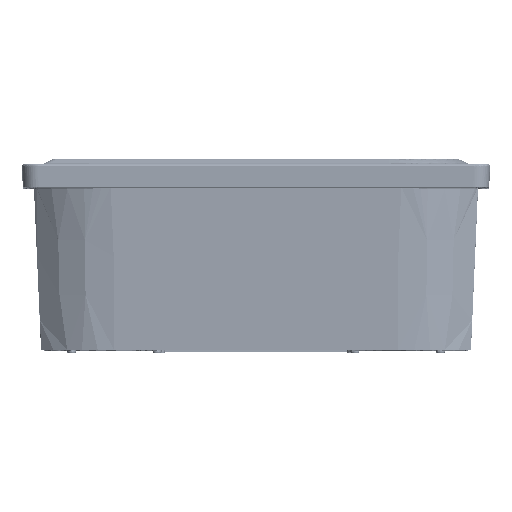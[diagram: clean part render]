
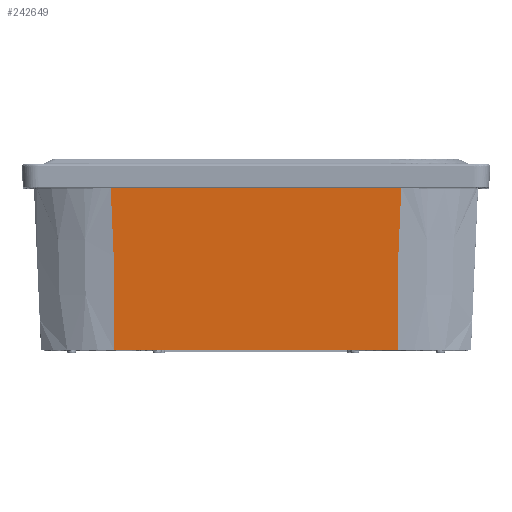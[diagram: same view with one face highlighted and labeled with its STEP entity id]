
A CAD part, top view. The second image highlights one B-rep face of the part: STEP entity #242649.
In plain terms, the highlighted planar face has unit normal (0, -0.044, 0.999) as drawn and (-0.999, -0.044, 0) by its records, which use the part's own axes.
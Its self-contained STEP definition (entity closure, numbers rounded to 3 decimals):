
#14311=PLANE('',#257141);
#22838=FACE_OUTER_BOUND('',#36305,.T.);
#36305=EDGE_LOOP('',(#171186,#171187,#171188,#171189,#171190,#171191,#171192,
#171193,#171194,#171195,#171196));
#57565=LINE('',#359679,#81871);
#57566=LINE('',#359728,#81872);
#57567=LINE('',#359732,#81873);
#57568=LINE('',#359734,#81874);
#57569=LINE('',#359736,#81875);
#57570=LINE('',#359738,#81876);
#57571=LINE('',#359740,#81877);
#57572=LINE('',#359742,#81878);
#57573=LINE('',#359744,#81879);
#57574=LINE('',#359746,#81880);
#57575=LINE('',#359747,#81881);
#81871=VECTOR('',#278966,0.5);
#81872=VECTOR('',#278977,10.);
#81873=VECTOR('',#278982,10.);
#81874=VECTOR('',#278983,10.);
#81875=VECTOR('',#278984,10.);
#81876=VECTOR('',#278985,10.);
#81877=VECTOR('',#278986,10.);
#81878=VECTOR('',#278987,10.);
#81879=VECTOR('',#278988,10.);
#81880=VECTOR('',#278989,10.);
#81881=VECTOR('',#278990,10.);
#109462=VERTEX_POINT('',#359666);
#109463=VERTEX_POINT('',#359677);
#109464=VERTEX_POINT('',#359727);
#109465=VERTEX_POINT('',#359731);
#109466=VERTEX_POINT('',#359733);
#109467=VERTEX_POINT('',#359735);
#109468=VERTEX_POINT('',#359737);
#109469=VERTEX_POINT('',#359739);
#109470=VERTEX_POINT('',#359741);
#109471=VERTEX_POINT('',#359743);
#109472=VERTEX_POINT('',#359745);
#133320=EDGE_CURVE('',#109462,#109463,#57565,.T.);
#133323=EDGE_CURVE('',#109463,#109464,#57566,.T.);
#133325=EDGE_CURVE('',#109465,#109462,#57567,.T.);
#133326=EDGE_CURVE('',#109466,#109465,#57568,.T.);
#133327=EDGE_CURVE('',#109466,#109467,#57569,.T.);
#133328=EDGE_CURVE('',#109467,#109468,#57570,.T.);
#133329=EDGE_CURVE('',#109468,#109469,#57571,.T.);
#133330=EDGE_CURVE('',#109470,#109469,#57572,.T.);
#133331=EDGE_CURVE('',#109471,#109470,#57573,.T.);
#133332=EDGE_CURVE('',#109471,#109472,#57574,.T.);
#133333=EDGE_CURVE('',#109464,#109472,#57575,.T.);
#171186=ORIENTED_EDGE('',*,*,#133320,.F.);
#171187=ORIENTED_EDGE('',*,*,#133325,.F.);
#171188=ORIENTED_EDGE('',*,*,#133326,.F.);
#171189=ORIENTED_EDGE('',*,*,#133327,.T.);
#171190=ORIENTED_EDGE('',*,*,#133328,.T.);
#171191=ORIENTED_EDGE('',*,*,#133329,.T.);
#171192=ORIENTED_EDGE('',*,*,#133330,.F.);
#171193=ORIENTED_EDGE('',*,*,#133331,.F.);
#171194=ORIENTED_EDGE('',*,*,#133332,.T.);
#171195=ORIENTED_EDGE('',*,*,#133333,.F.);
#171196=ORIENTED_EDGE('',*,*,#133323,.F.);
#242649=ADVANCED_FACE('',(#22838),#14311,.T.);
#257141=AXIS2_PLACEMENT_3D('',#359730,#278980,#278981);
#278966=DIRECTION('',(0.,0.,1.));
#278977=DIRECTION('',(0.044,-0.998,-0.044));
#278980=DIRECTION('center_axis',(-0.999,-0.044,
0.));
#278981=DIRECTION('ref_axis',(0.,0.,-1.));
#278982=DIRECTION('',(-0.044,0.998,-0.044));
#278983=DIRECTION('',(0.,0.,-1.));
#278984=DIRECTION('',(0.044,-0.998,0.044));
#278985=DIRECTION('',(0.044,-0.998,0.044));
#278986=DIRECTION('',(0.044,-0.999,0.));
#278987=DIRECTION('',(0.,0.,-1.));
#278988=DIRECTION('',(0.044,-0.999,0.));
#278989=DIRECTION('',(-0.044,0.998,0.044));
#278990=DIRECTION('',(0.,0.,-1.));
#359666=CARTESIAN_POINT('',(-271.739,-5.978,-199.248));
#359677=CARTESIAN_POINT('',(-271.739,-5.978,199.248));
#359679=CARTESIAN_POINT('',(-271.739,-5.978,-209.));
#359727=CARTESIAN_POINT('',(-271.429,-13.087,198.938));
#359728=CARTESIAN_POINT('',(-271.621,-8.678,199.13));
#359730=CARTESIAN_POINT('Origin',(-272.,0.,-209.));
#359731=CARTESIAN_POINT('',(-271.429,-13.087,-198.938));
#359732=CARTESIAN_POINT('',(-271.501,-11.418,-199.011));
#359733=CARTESIAN_POINT('',(-271.429,-13.087,-136.429));
#359734=CARTESIAN_POINT('',(-271.429,-13.087,-202.142));
#359735=CARTESIAN_POINT('',(-268.551,-79.,-133.551));
#359736=CARTESIAN_POINT('',(-270.322,-38.434,-135.322));
#359737=CARTESIAN_POINT('',(-268.507,-80.,-133.507));
#359738=CARTESIAN_POINT('',(-270.322,-38.434,-135.322));
#359739=CARTESIAN_POINT('',(-264.686,-167.522,-133.507));
#359740=CARTESIAN_POINT('',(-268.507,-80.,-133.507));
#359741=CARTESIAN_POINT('',(-264.686,-167.522,133.507));
#359742=CARTESIAN_POINT('',(-264.686,-167.522,-104.5));
#359743=CARTESIAN_POINT('',(-268.507,-80.,133.507));
#359744=CARTESIAN_POINT('',(-268.507,-80.,133.507));
#359745=CARTESIAN_POINT('',(-271.429,-13.087,136.429));
#359746=CARTESIAN_POINT('',(-269.925,-47.525,134.925));
#359747=CARTESIAN_POINT('',(-271.429,-13.087,-6.858));
